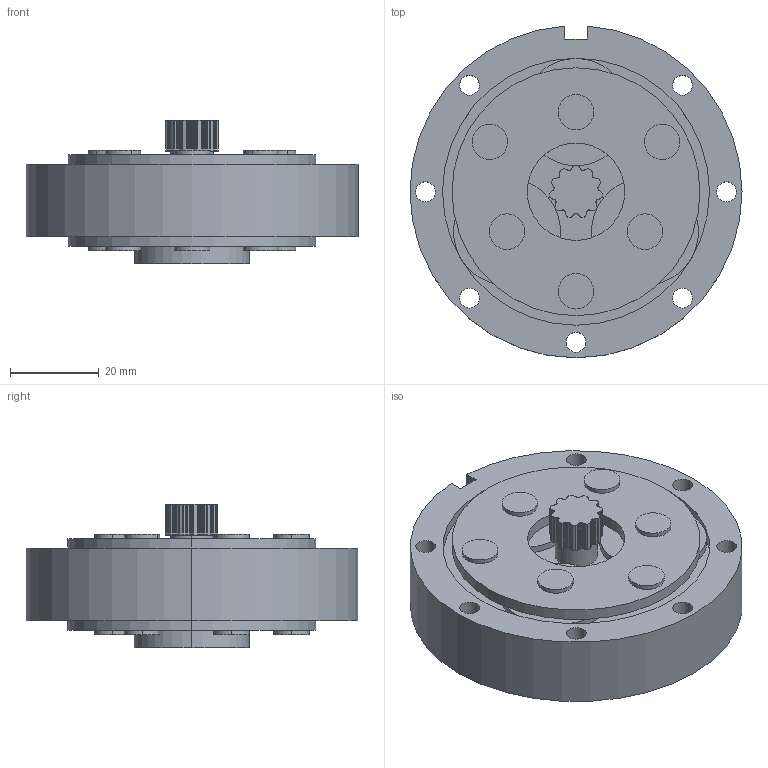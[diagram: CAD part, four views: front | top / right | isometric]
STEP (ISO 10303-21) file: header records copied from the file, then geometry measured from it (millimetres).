
FILE_DESCRIPTION (( 'STEP AP203' ), '1' );
FILE_NAME ('LGU75-5MLG12.step', '2021-07-23T02:29:17', ( '' ), ( '' ), 'SwSTEP 2.0', 'SolidWorks 2021', '' );
FILE_SCHEMA (( 'CONFIG_CONTROL_DESIGN' ));
Length unit declared in the file: millimetre
Products named in the file (1): LGU75-5MLG12
Bounding box: 75 x 74.92 x 32.5 mm (x, y, z)
Volume: 74686.6 mm3; surface area: 26751.2 mm2
Topology: 1 solids, 1 shells, 517 faces, 1464 edges, 976 vertices
Faces by surface type: cylinder 485, plane 32
Entity records: 17497 total; most frequent: DIRECTION 3470, CARTESIAN_POINT 2958, ORIENTED_EDGE 2928, AXIS2_PLACEMENT_3D 1488, EDGE_CURVE 1464, VERTEX_POINT 976, CIRCLE 970, EDGE_LOOP 570
